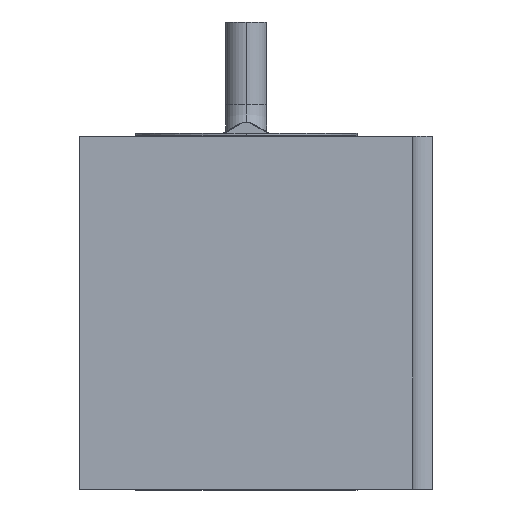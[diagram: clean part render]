
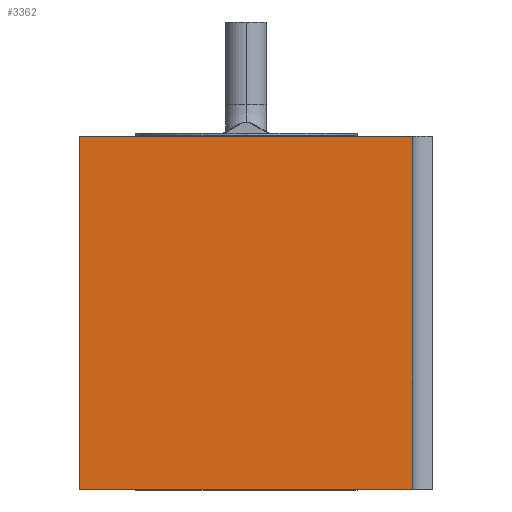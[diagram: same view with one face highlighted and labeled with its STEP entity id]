
A CAD part, left-side view. The second image highlights one B-rep face of the part: STEP entity #3362.
In plain terms, the highlighted planar face has unit normal (-1, 0, 0).
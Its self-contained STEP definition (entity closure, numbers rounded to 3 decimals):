
#103=DIRECTION('',(0.,1.,0.));
#104=VECTOR('',#103,40.488);
#105=CARTESIAN_POINT('',(0.,2.388,21.438));
#106=LINE('',#105,#104);
#999=DIRECTION('',(0.,0.,-1.));
#1000=VECTOR('',#999,42.875);
#1001=CARTESIAN_POINT('',(0.,42.875,21.438));
#1002=LINE('',#1001,#1000);
#1053=DIRECTION('',(0.,1.,0.));
#1054=VECTOR('',#1053,40.488);
#1055=CARTESIAN_POINT('',(0.,2.388,-21.438));
#1056=LINE('',#1055,#1054);
#1057=DIRECTION('',(0.,0.,-1.));
#1058=VECTOR('',#1057,42.875);
#1059=CARTESIAN_POINT('',(0.,2.388,21.438));
#1060=LINE('',#1059,#1058);
#1774=CARTESIAN_POINT('',(0.,2.388,-21.438));
#1776=VERTEX_POINT('',#1774);
#1783=CARTESIAN_POINT('',(0.,42.875,-21.438));
#1784=VERTEX_POINT('',#1783);
#1803=CARTESIAN_POINT('',(0.,2.388,21.438));
#1804=VERTEX_POINT('',#1803);
#1805=CARTESIAN_POINT('',(0.,42.875,21.438));
#1806=VERTEX_POINT('',#1805);
#3351=CARTESIAN_POINT('',(0.,42.875,-21.438));
#3352=DIRECTION('',(-1.,0.,0.));
#3353=DIRECTION('',(0.,-1.,0.));
#3354=AXIS2_PLACEMENT_3D('',#3351,#3352,#3353);
#3355=PLANE('',#3354);
#3356=ORIENTED_EDGE('',*,*,#2198,.T.);
#3357=ORIENTED_EDGE('',*,*,#3320,.F.);
#3358=ORIENTED_EDGE('',*,*,#2288,.F.);
#3359=ORIENTED_EDGE('',*,*,#2223,.T.);
#3360=EDGE_LOOP('',(#3356,#3357,#3358,#3359));
#3361=FACE_OUTER_BOUND('',#3360,.F.);
#3362=ADVANCED_FACE('',(#3361),#3355,.T.);
#2198=EDGE_CURVE('',#1776,#1784,#1056,.T.);
#2223=EDGE_CURVE('',#1804,#1776,#1060,.T.);
#2288=EDGE_CURVE('',#1804,#1806,#106,.T.);
#3320=EDGE_CURVE('',#1806,#1784,#1002,.T.);
